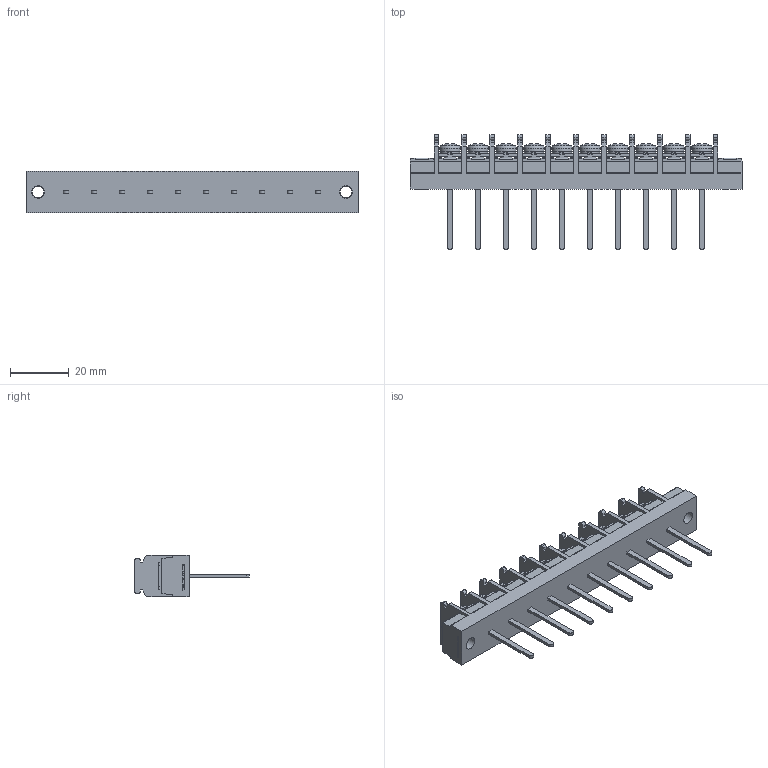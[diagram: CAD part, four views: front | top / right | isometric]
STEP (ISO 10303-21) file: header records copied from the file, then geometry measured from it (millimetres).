
FILE_DESCRIPTION(/* description */ ('Alibre Inc.'),/* implementation_level */ '2;1');
FILE_NAME(/* name */ 'export-4E45809A-DD01-4D1A-A808-AD8B30B5662E',/* time_stamp */ '2021-02-13T17:36:03+09:00',/* author */ (''),/* organization */ (''),/* preprocessor_version */ 'ST-DEVELOPER v17',/* originating_system */ 'Alibre',/* authorisation */ '');
FILE_SCHEMA (('CONFIG_CONTROL_DESIGN'));
Length unit declared in the file: millimetre
Bounding box: 112.7 x 39 x 14 mm (x, y, z)
Volume: 18614.4 mm3; surface area: 13142.4 mm2
Topology: 1 solids, 27 shells, 1614 faces, 4540 edges, 2984 vertices
Faces by surface type: plane 1206, cylinder 224, bspline 104, cone 50, torus 20, sphere 10
Full cylindrical faces by diameter (mm): 4 x22, 4.2 x2, 7 x10
Entity records: 49425 total; most frequent: CARTESIAN_POINT 10050, ORIENTED_EDGE 8908, DIRECTION 6512, EDGE_CURVE 4454, VECTOR 3222, LINE 3222, VERTEX_POINT 2962, AXIS2_PLACEMENT_3D 2218
